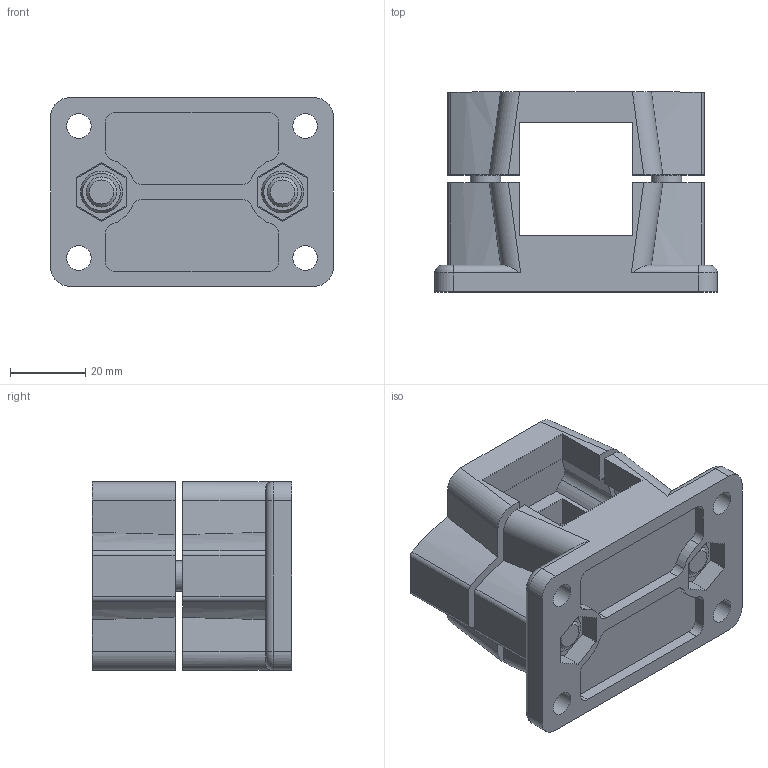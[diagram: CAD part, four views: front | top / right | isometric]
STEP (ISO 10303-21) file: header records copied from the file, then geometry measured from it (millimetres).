
FILE_DESCRIPTION( ( 'STEP AP203' ), '1' );
FILE_NAME( 'C:/Temp/Ganter_Step_05_03_2020/data/3_7/147/Flanged connector clamp GN 147-V30-2-SW.stp', '2020-03-12T14:20:30', ( 'License CC BY-ND 4.0' ), ( 'CADENAS' ), ' ', 'PARTsolutions', ' ' );
FILE_SCHEMA( ( 'CONFIG_CONTROL_DESIGN' ) );
Length unit declared in the file: millimetre
Products named in the file (1): _Flanged connector clamp GN 147-V30-2-SW
Bounding box: 75 x 53 x 50 mm (x, y, z)
Volume: 74927 mm3; surface area: 34092.1 mm2
Topology: 1 solids, 1 shells, 230 faces, 616 edges, 410 vertices
Faces by surface type: plane 134, cylinder 86, torus 6, cone 4
Full cylindrical faces by diameter (mm): 6.5 x4, 8 x4, 8.5 x4, 13 x2
Entity records: 7138 total; most frequent: CARTESIAN_POINT 1277, DIRECTION 1232, ORIENTED_EDGE 1172, EDGE_CURVE 586, AXIS2_PLACEMENT_3D 419, VERTEX_POINT 400, LINE 394, VECTOR 394
